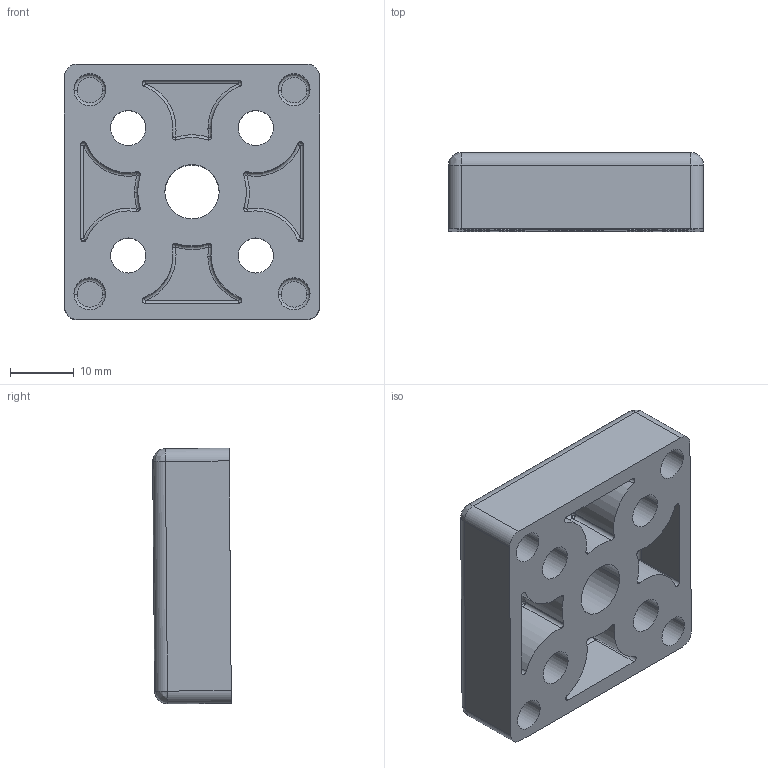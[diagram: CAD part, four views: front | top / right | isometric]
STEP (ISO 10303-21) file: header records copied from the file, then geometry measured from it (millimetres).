
FILE_DESCRIPTION (( 'STEP AP203' ), '1' );
FILE_NAME ('0105FP4040M10.STEP', '2024-03-15T08:38:11', ( 'Windows-Benutzer' ), ( '' ), 'SwSTEP 2.0', 'SolidWorks 2023', '' );
FILE_SCHEMA (( 'CONFIG_CONTROL_DESIGN' ));
Length unit declared in the file: millimetre
Products named in the file (1): 0105FP4040M10
Bounding box: 40 x 12.33 x 40.09 mm (x, y, z)
Volume: 12362.4 mm3; surface area: 8173.3 mm2
Topology: 1 solids, 1 shells, 156 faces, 371 edges, 215 vertices
Faces by surface type: cylinder 75, bspline 59, plane 22
Entity records: 6301 total; most frequent: CARTESIAN_POINT 2795, DIRECTION 749, ORIENTED_EDGE 714, EDGE_CURVE 357, AXIS2_PLACEMENT_3D 325, CIRCLE 227, VERTEX_POINT 215, EDGE_LOOP 178
